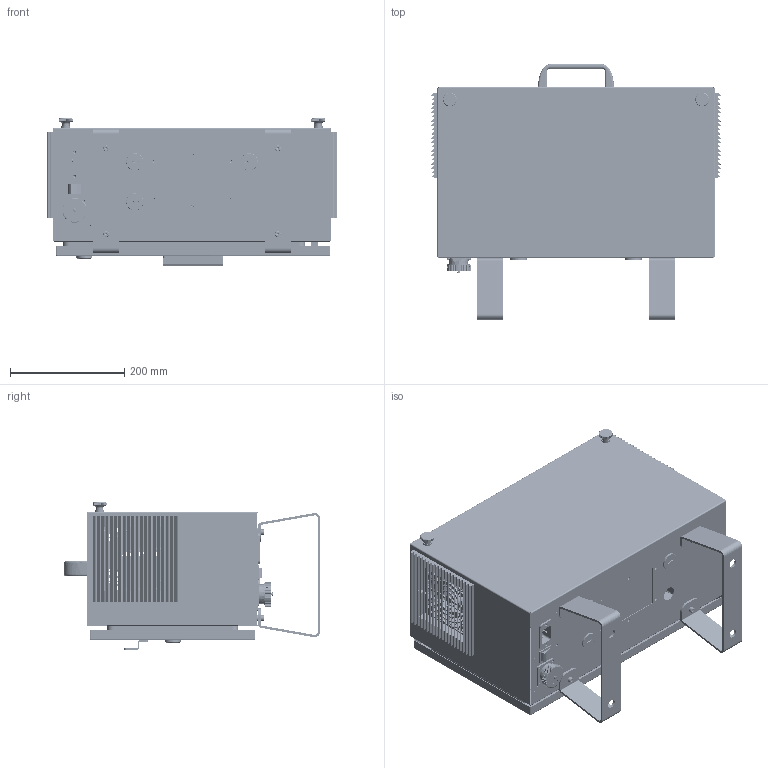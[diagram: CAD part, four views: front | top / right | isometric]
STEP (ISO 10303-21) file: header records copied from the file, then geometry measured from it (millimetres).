
FILE_DESCRIPTION (( 'STEP AP214' ), '1' );
FILE_NAME ('ERB2C2K0諷秶嶄_300-600-2K眊极僕蚚-20250407.STEP', '2025-04-07T09:56:54', ( '' ), ( '' ), 'SwSTEP 2.0', 'SolidWorks 2020', '' );
FILE_SCHEMA (( 'AUTOMOTIVE_DESIGN' ));
Length unit declared in the file: millimetre
Products named in the file (38): FE-460-2; knurled thumb screws gb_GB_KNURLED_SCREWS_TYPE1 M8X12-N; NA60200449_假蚾鍼踢-C; NA60200421_躇猾啣01; NA20200208_220V萇埭脣釱(CS620&625); NA60200430_蟀諉ん假蚾鍼踢-C20; 菁釱; NA60200382_唑境-C; IO-CS-PCBA; 躇猾沭 RH-GS-D0818-EMC 1285mm; 蟀諉え; hex nuts, style 1-grades ab gb_GB_FASTENER_NUT_SNAB1 M3-N; 眊极-C; hexagon socket head cap screws gb_GB_FASTENER_SCREWS_HSHCS M8X12-N; 藷-C; NA20600043_摒倰羲壽; 脣种; ERB2C2K0諷秶嶄_300-600-2K眊极僕蚚-20250407; hexagon nuts with flange gb_GB_HEXAGON_TYPE12 M8-N; cross recessed countersunk head screws gb2_GB_CROSS_SCREWS_TYPE10 M3X16-14.35-Z1-N; 枑忒 UPFN26-117-B; 盓殤-C; 蛌忕坶 MS705 H=25; NA20200197_瑤脣釱-CS620蚳蚚_WY32-Z; hexagon socket head cap screws gb_GB_FASTENER_SCREWS_HSHCS M6X10-N; NA21100007_徹薦ん(EMC); AC_STDBY_A1-20231113; NA60401323_ERB1C眊极; NA60401362_捚親薯菜啣; HRP-1000N3; 蝓蟈 HGZ-201-ST; NA60200446_假蚾鍼踢裔啣; EMC鍼踢; NA60200450_电源控制板安装钣金-1000W; cross recessed countersunk head screws gb2_GB_CROSS_SCREWS_TYPE10 M3X8-6.35-Z1-N; 蟻裔 M25X1.5 窪伎 湍蹟譫
Assembly tree (82 placements, depth 4):
  ERB2C2K0諷秶嶄_300-600-2K眊极僕蚚-20250407
    NA60200449_假蚾鍼踢-C
    AC_STDBY_A1-20231113
    IO-CS-PCBA
    NA60401362_捚親薯菜啣
    NA60401323_ERB1C眊极
      眊极-C
      盓殤-C  x2
      藷-C
      蝓蟈 HGZ-201-ST
        蟀諉え
        菁釱
        脣种  x2
      蛌忕坶 MS705 H=25
      蟻裔 M25X1.5 窪伎 湍蹟譫  x3
      躇猾沭 RH-GS-D0818-EMC 1285mm
      hexagon socket head cap screws gb_GB_FASTENER_SCREWS_HSHCS M6X10-N  x10
      knurled thumb screws gb_GB_KNURLED_SCREWS_TYPE1 M8X12-N  x2
      hexagon nuts with flange gb_GB_HEXAGON_TYPE12 M8-N  x2
      hexagon socket head cap screws gb_GB_FASTENER_SCREWS_HSHCS M8X12-N  x2
      蝓蟈 HGZ-201-ST
        蟀諉え
        菁釱
        脣种  x2
      枑忒 UPFN26-117-B
    NA21100007_徹薦ん(EMC)
      EMC鍼踢
      FE-460-2
      cross recessed countersunk head screws gb2_GB_CROSS_SCREWS_TYPE10 M3X8-6.35-Z1-N  x4
      cross recessed countersunk head screws gb2_GB_CROSS_SCREWS_TYPE10 M3X16-14.35-Z1-N  x4
      hex nuts, style 1-grades ab gb_GB_FASTENER_NUT_SNAB1 M3-N  x4
    NA60200421_躇猾啣01  x2
    NA21100007_徹薦ん(EMC)
      EMC鍼踢
      FE-460-2
      cross recessed countersunk head screws gb2_GB_CROSS_SCREWS_TYPE10 M3X8-6.35-Z1-N  x4
      cross recessed countersunk head screws gb2_GB_CROSS_SCREWS_TYPE10 M3X16-14.35-Z1-N  x4
      hex nuts, style 1-grades ab gb_GB_FASTENER_NUT_SNAB1 M3-N  x4
    NA60200382_唑境-C
    NA60200446_假蚾鍼踢裔啣
    HRP-1000N3  x2
    NA60200430_蟀諉ん假蚾鍼踢-C20
    NA60200450_电源控制板安装钣金-1000W
    NA20600043_摒倰羲壽
    NA20200208_220V萇埭脣釱(CS620&625)
    NA20200197_瑤脣釱-CS620蚳蚚_WY32-Z
Bounding box: 505.4 x 447.12 x 256.9 mm (x, y, z)
Volume: 2368232.7 mm3; surface area: 3094485.5 mm2
Topology: 172 solids, 305 shells, 39328 faces, 104099 edges, 66754 vertices
Faces by surface type: plane 25456, cylinder 10766, bspline 1766, cone 959, torus 255, sphere 126
Entity records: 1449441 total; most frequent: CARTESIAN_POINT 285453, ORIENTED_EDGE 180268, DIRECTION 165806, EDGE_CURVE 90147, LINE 63384, VECTOR 63384, VERTEX_POINT 58398, AXIS2_PLACEMENT_3D 51211
